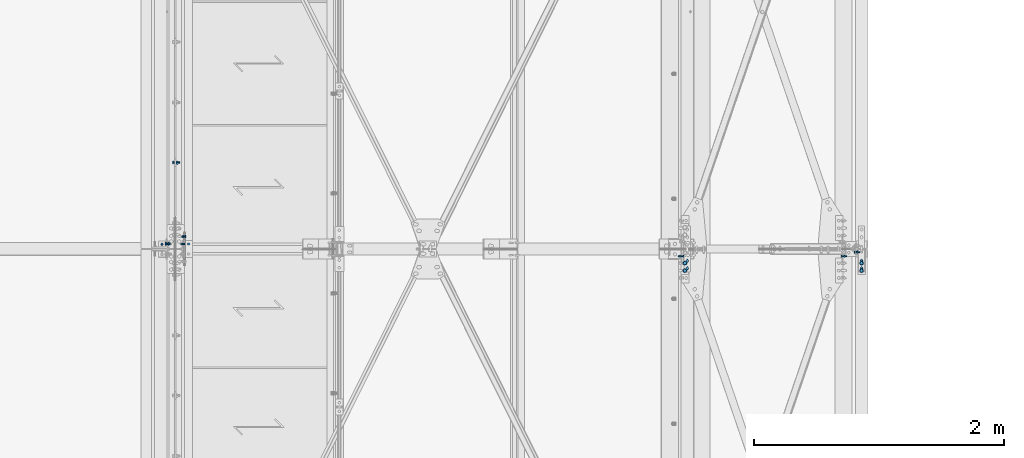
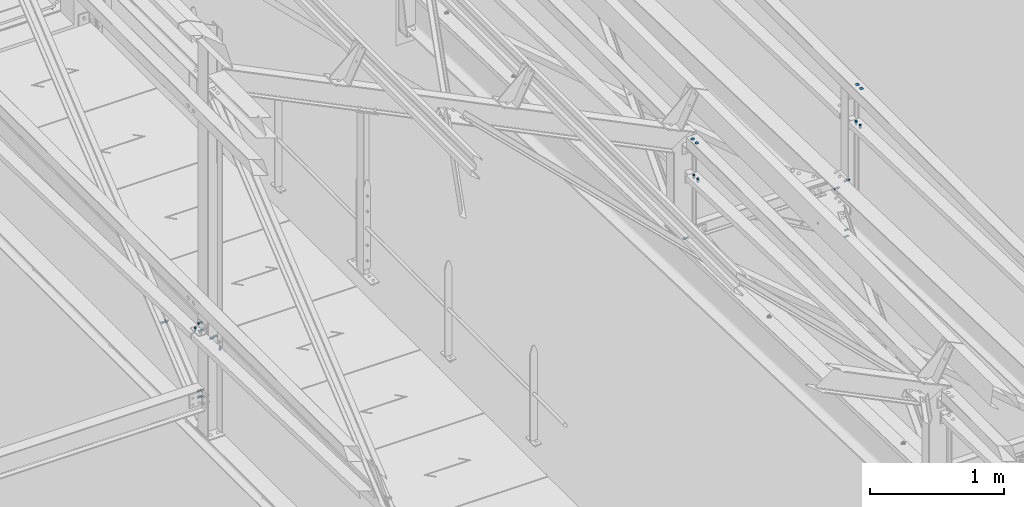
# One storey, part 329 of 362: 17 mechanical fasteners.
"""IFC2X3 building model written with IfcOpenShell, lengths in millimetres."""

from ifc_helpers import new_model, si_unit, frame, frame_2d, origin_with_axes, origin_2d_with_axis, place, context, subcontext, project, spatial, polyline, circle_curve, parameter, trimmed, segment, composite_curve, circle, outline, extrude, source, transform, mapped, material, type_object, element, save


model = new_model("IFC2X3")

# Units and contexts
model_context = context("Model", 3, precision=1e-05, world=origin_with_axes())
body_context = subcontext(model_context, "Body", "Model", "MODEL_VIEW")
ifc_project = project(units=[si_unit("LENGTHUNIT", "METRE", prefix="MILLI"), si_unit("AREAUNIT", "SQUARE_METRE"), si_unit("VOLUMEUNIT", "CUBIC_METRE"), si_unit("MASSUNIT", "GRAM", prefix="KILO"), si_unit("TIMEUNIT", "SECOND"), si_unit("PLANEANGLEUNIT", "RADIAN"), si_unit("SOLIDANGLEUNIT", "STERADIAN"), si_unit("THERMODYNAMICTEMPERATUREUNIT", "DEGREE_CELSIUS"), si_unit("LUMINOUSINTENSITYUNIT", "LUMEN")], contexts=[model_context])

# Site, building, storey
site_placement = place(None, origin_with_axes())
site = spatial("IfcSite", under=ifc_project, at=site_placement, Name="Undefined", CompositionType="ELEMENT")
building_placement = place(site_placement, origin_with_axes())
building = spatial("IfcBuilding", under=site, at=building_placement, Name="Undefined", CompositionType="ELEMENT")
storey_placement = place(building_placement, origin_with_axes())
storey = spatial("IfcBuildingStorey", under=building, at=storey_placement, Name="Undefined", CompositionType="ELEMENT", Elevation=0.0)

# Mechanical fasteners
ifc_material_1 = material(Name="6.8")
mechanical_fastener_type = type_object("IfcMechanicalFastenerType", Name="Bolt assembly")
shared_shape_1 = source(origin_with_axes(), body_context, "Body", "SweptSolid", [
    extrude(circle(Radius=15.0, at=origin_2d_with_axis()), frame((0.0, 0.0, 0.0), z_axis=(0.0, 1.0, 0.0), x_axis=(1.0, 0.0, 0.0)), (0.0, 0.0, 1.0), 4.1),
])
for number, where, z_axis, x_axis, name in (
    (1, (39775.0, 11226.5, 8550.0), (-1.0, 0.0, 0.0), (0.0, 1.0, 0.0), "Bolt assembly"),
    (2, (38360.0, 11226.5, 8550.0), (-1.0, 0.0, 0.0), (0.0, 1.0, 0.0), "Bolt assembly"),
):
    element("IfcMechanicalFastener", number, at=place(storey_placement, frame(where, z_axis=z_axis, x_axis=x_axis)), inside=storey, type_object=mechanical_fastener_type, material=ifc_material_1, Name=name, NominalDiameter=30.0, NominalLength=4.0, context=body_context, shape_type="MappedRepresentation", body=[
        mapped(shared_shape_1, transform((0.0, 0.0, 0.0))),
        mapped(shared_shape_1, transform((60.0, 0.0, 0.0))),
    ])
ifc_material_2 = material(Name="8.8-SB-ZINGUE")
shared_shape_2 = source(origin_with_axes(), body_context, "Body", "SweptSolid", [
    extrude(circle(Radius=9.0, at=origin_2d_with_axis()), frame((0.0, -10.9000000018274, 0.0), z_axis=(0.0, 1.0, 0.0), x_axis=(1.0, 0.0, 0.0)), (0.0, 0.0, 1.0), 6.0),
    extrude(circle(Radius=9.0, at=origin_2d_with_axis()), frame((0.0, 4.9000000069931, 0.0), z_axis=(0.0, 1.0, 0.0), x_axis=(1.0, 0.0, 0.0)), (0.0, 0.0, 1.0), 6.1),
    extrude(circle(Radius=9.0, at=origin_2d_with_axis()), frame((0.0, -3.99999923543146, 0.0), z_axis=(0.0, 1.0, 0.0), x_axis=(1.0, 0.0, 0.0)), (0.0, 0.0, 1.0), 8.0),
    extrude(outline(polyline([(13.85640646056, 0.0), (6.92820323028, 12.0000000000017), (-6.92820323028, 12.0000000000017), (-13.85640646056, 0.0), (-6.92820323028, -12.0000000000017), (6.92820323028, -12.0000000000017), (13.85640646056, 0.0)])), frame((0.0, -21.5600000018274, 0.0), z_axis=(0.0, 1.0, 0.0), x_axis=(1.0, 0.0, 0.0)), (0.0, 0.0, 1.0), 10.56),
    extrude(circle(Radius=8.0, at=origin_2d_with_axis()), frame((0.0, -11.0000000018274, 0.0), z_axis=(0.0, 1.0, 0.0), x_axis=(1.0, 0.0, 0.0)), (0.0, 0.0, 1.0), 50.0),
    extrude(outline(polyline([(15.3344231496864, 0.0), (7.6672115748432, 13.2800000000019), (-7.6672115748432, 13.2800000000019), (-15.3344231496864, 0.0), (-7.6672115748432, -13.2800000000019), (7.6672115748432, -13.2800000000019), (15.3344231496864, 0.0)])), frame((0.0, 11.0000000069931, 0.0), z_axis=(0.0, 1.0, 0.0), x_axis=(1.0, 0.0, 0.0)), (0.0, 0.0, 1.0), 10.56),
])
mechanical_fastener_1_placement = place(storey_placement, frame((34280.0, 12090.8926927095, 7826.89539649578), z_axis=(0.0, 1.0, 0.0), x_axis=(0.0, 0.0, 1.0)))
element("IfcMechanicalFastener", 3, at=mechanical_fastener_1_placement, inside=storey, type_object=mechanical_fastener_type, material=ifc_material_2, Name="Bolt assembly", NominalDiameter=16.0, NominalLength=50.0, context=body_context, shape_type="MappedRepresentation", body=[
    mapped(shared_shape_2, transform((0.0, 0.0, 0.0))),
])
shared_shape_3 = source(origin_with_axes(), body_context, "Body", "SweptSolid", [
    extrude(circle(Radius=7.0, at=origin_2d_with_axis()), frame((0.0, -4.90000000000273, 0.0), z_axis=(0.0, 1.0, 0.0), x_axis=(1.0, 0.0, 0.0)), (0.0, 0.0, 1.0), 5.0),
    extrude(circle(Radius=7.0, at=origin_2d_with_axis()), frame((0.0, -0.100011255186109, 0.0), z_axis=(0.0, 1.0, 0.0), x_axis=(1.0, 0.0, 0.0)), (0.0, 0.0, 1.0), 7.1),
    extrude(outline(polyline([(10.39230484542, 0.0), (5.19615242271, 9.00000000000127), (-5.19615242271, 9.00000000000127), (-10.39230484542, 0.0), (-5.19615242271, -9.00000000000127), (5.19615242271, -9.00000000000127), (10.39230484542, 0.0)])), frame((0.0, -12.9200004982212, 0.0), z_axis=(0.0, 1.0, 0.0), x_axis=(1.0, 0.0, 0.0)), (0.0, 0.0, 1.0), 7.92),
    extrude(circle(Radius=6.0, at=origin_2d_with_axis()), frame((0.0, -5.00000000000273, 0.0), z_axis=(0.0, 1.0, 0.0), x_axis=(1.0, 0.0, 0.0)), (0.0, 0.0, 1.0), 30.0),
    extrude(outline(polyline([(11.5008173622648, 0.0), (5.7504086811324, 9.96000000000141), (-5.7504086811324, 9.96000000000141), (-11.5008173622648, 0.0), (-5.7504086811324, -9.96000000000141), (5.7504086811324, -9.96000000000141), (11.5008173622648, 0.0)])), frame((0.0, 7.0, 0.0), z_axis=(0.0, 1.0, 0.0), x_axis=(1.0, 0.0, 0.0)), (0.0, 0.0, 1.0), 7.92),
])
mechanical_fastener_2_placement = place(storey_placement, frame((34386.5000576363, 11439.9999999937, 7950.00000000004), z_axis=(0.0, -1.0, 0.0), x_axis=(-1.0, 0.0, 0.0)))
element("IfcMechanicalFastener", 4, at=mechanical_fastener_2_placement, inside=storey, type_object=mechanical_fastener_type, material=ifc_material_2, Name="Bolt assembly", NominalDiameter=12.0, NominalLength=30.0, context=body_context, shape_type="MappedRepresentation", body=[
    mapped(shared_shape_3, transform((0.0, 0.0, 0.0))),
])
shared_shape_4 = source(origin_with_axes(), body_context, "Body", "SweptSolid", [
    extrude(circle(Radius=7.0, at=origin_2d_with_axis()), frame((0.0, -0.107944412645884, 0.0), z_axis=(0.0, 1.0, 0.0), x_axis=(1.0, 0.0, 0.0)), (0.0, 0.0, 1.0), 5.1),
    extrude(circle(Radius=7.0, at=origin_2d_with_axis()), frame((0.0, -6.4, 0.0), z_axis=(0.0, 1.0, 0.0), x_axis=(1.0, 0.0, 0.0)), (0.0, 0.0, 1.0), 6.0),
    extrude(outline(polyline([(10.39230484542, 0.0), (5.19615242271, 9.00000000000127), (-5.19615242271, 9.00000000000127), (-10.39230484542, 0.0), (-5.19615242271, -9.00000000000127), (5.19615242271, -9.00000000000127), (10.39230484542, 0.0)])), frame((0.0, -14.42, 0.0), z_axis=(0.0, 1.0, 0.0), x_axis=(1.0, 0.0, 0.0)), (0.0, 0.0, 1.0), 7.92),
    extrude(circle(Radius=6.0, at=origin_2d_with_axis()), frame((0.0, -6.5, 0.0), z_axis=(0.0, 1.0, 0.0), x_axis=(1.0, 0.0, 0.0)), (0.0, 0.0, 1.0), 30.0),
    extrude(outline(polyline([(11.5008173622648, 0.0), (5.7504086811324, 9.96000000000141), (-5.7504086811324, 9.96000000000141), (-11.5008173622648, 0.0), (-5.7504086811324, -9.96000000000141), (5.7504086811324, -9.96000000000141), (11.5008173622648, 0.0)])), frame((0.0, 4.99205558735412, 0.0), z_axis=(0.0, 1.0, 0.0), x_axis=(1.0, 0.0, 0.0)), (0.0, 0.0, 1.0), 7.92),
])
mechanical_fastener_3_placement = place(storey_placement, frame((34351.491943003, 11499.9999999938, 8015.00000000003), z_axis=(0.0, 0.0, -1.0), x_axis=(0.0, -1.0, 0.0)))
element("IfcMechanicalFastener", 5, at=mechanical_fastener_3_placement, inside=storey, type_object=mechanical_fastener_type, material=ifc_material_2, Name="Bolt assembly", NominalDiameter=12.0, NominalLength=30.0, context=body_context, shape_type="MappedRepresentation", body=[
    mapped(shared_shape_4, transform((0.0, 0.0, 0.0))),
])
shared_shape_5 = source(origin_with_axes(), body_context, "Body", "SweptSolid", [
    extrude(circle(Radius=7.0, at=origin_2d_with_axis()), frame((0.0, -0.0999426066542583, 0.0), z_axis=(0.0, 1.0, 0.0), x_axis=(1.0, 0.0, 0.0)), (0.0, 0.0, 1.0), 8.6),
    extrude(circle(Radius=7.0, at=origin_2d_with_axis()), frame((0.0, -4.89983187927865, 0.0), z_axis=(0.0, 1.0, 0.0), x_axis=(1.0, 0.0, 0.0)), (0.0, 0.0, 1.0), 5.0),
    extrude(outline(polyline([(10.39230484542, 0.0), (5.19615242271, 9.00000000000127), (-5.19615242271, 9.00000000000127), (-10.39230484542, 0.0), (-5.19615242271, -9.00000000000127), (5.19615242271, -9.00000000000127), (10.39230484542, 0.0)])), frame((0.0, -12.9198318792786, 0.0), z_axis=(0.0, 1.0, 0.0), x_axis=(1.0, 0.0, 0.0)), (0.0, 0.0, 1.0), 7.92),
    extrude(circle(Radius=6.0, at=origin_2d_with_axis()), frame((0.0, -4.99983187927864, 0.0), z_axis=(0.0, 1.0, 0.0), x_axis=(1.0, 0.0, 0.0)), (0.0, 0.0, 1.0), 30.0),
    extrude(outline(polyline([(11.5008173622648, 0.0), (5.7504086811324, 9.96000000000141), (-5.7504086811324, 9.96000000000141), (-11.5008173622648, 0.0), (-5.7504086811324, -9.96000000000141), (5.7504086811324, -9.96000000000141), (11.5008173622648, 0.0)])), frame((0.0, 8.50005763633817, 0.0), z_axis=(0.0, 1.0, 0.0), x_axis=(1.0, 0.0, 0.0)), (0.0, 0.0, 1.0), 7.92),
])
mechanical_fastener_4_placement = place(storey_placement, frame((34346.5000576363, 11440.0000009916, 8070.00000000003), z_axis=(0.0, 1.0, 0.0), x_axis=(0.0, 0.0, -1.0)))
element("IfcMechanicalFastener", 6, at=mechanical_fastener_4_placement, inside=storey, type_object=mechanical_fastener_type, material=ifc_material_2, Name="Bolt assembly", NominalDiameter=12.0, NominalLength=30.0, context=body_context, shape_type="MappedRepresentation", body=[
    mapped(shared_shape_5, transform((0.0, 0.0, 0.0))),
])
shared_shape_6 = source(origin_with_axes(), body_context, "Body", "SweptSolid", [
    extrude(circle(Radius=7.0, at=origin_2d_with_axis()), frame((0.0, -3.88823162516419, 0.0), z_axis=(0.0, 1.0, 0.0), x_axis=(1.0, 0.0, 0.0)), (0.0, 0.0, 1.0), 4.0),
    extrude(outline(composite_curve([segment(polyline([(-7.0, 7.0), (7.0, 7.0)]), True, "CONTINUOUS"), segment(trimmed(circle_curve(frame_2d((7.0, 0.0), x_axis=(0.0, 1.0)), 7.0), [parameter(0.0)], [parameter(3.14159265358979)], False, "PARAMETER"), True, "CONTINUOUS"), segment(polyline([(7.0, -7.0), (-7.0, -7.0)]), True, "CONTINUOUS"), segment(trimmed(circle_curve(frame_2d((-7.0, 0.0), x_axis=(0.0, -1.0)), 7.0), [parameter(0.0)], [parameter(3.14159265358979)], False, "PARAMETER"), True, "DISCONTINUOUS")], self_intersect=False)), frame((0.0, -0.100011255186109, 0.0), z_axis=(0.0, 1.0, 0.0), x_axis=(1.0, 0.0, 0.0)), (0.0, 0.0, 1.0), 6.1),
    extrude(outline(polyline([(10.39230484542, 0.0), (5.19615242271, 9.00000000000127), (-5.19615242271, 9.00000000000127), (-10.39230484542, 0.0), (-5.19615242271, -9.00000000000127), (5.19615242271, -9.00000000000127), (10.39230484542, 0.0)])), frame((0.0, -11.9082316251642, 0.0), z_axis=(0.0, 1.0, 0.0), x_axis=(1.0, 0.0, 0.0)), (0.0, 0.0, 1.0), 7.92),
    extrude(circle(Radius=6.0, at=origin_2d_with_axis()), frame((0.0, -3.98823162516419, 0.0), z_axis=(0.0, 1.0, 0.0), x_axis=(1.0, 0.0, 0.0)), (0.0, 0.0, 1.0), 30.0),
    extrude(circle(Radius=10.8, at=origin_2d_with_axis()), frame((0.0, 6.0, 0.0), z_axis=(0.0, 1.0, 0.0), x_axis=(1.0, 0.0, 0.0)), (0.0, 0.0, 1.0), 3.96),
    extrude(outline(polyline([(11.5008173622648, 0.0), (5.7504086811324, 9.96000000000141), (-5.7504086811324, 9.96000000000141), (-11.5008173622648, 0.0), (-5.7504086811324, -9.96000000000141), (5.7504086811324, -9.96000000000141), (11.5008173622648, 0.0)])), frame((0.0, 9.9600084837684, 0.0), z_axis=(0.0, 1.0, 0.0), x_axis=(1.0, 0.0, 0.0)), (0.0, 0.0, 1.0), 7.92),
])
mechanical_fastener_5_placement = place(storey_placement, frame((39775.0, 11245.0444201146, 8197.86935261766), z_axis=(-1.0, 0.0, 0.0), x_axis=(0.0, 0.99950644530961, -0.0314144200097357)))
element("IfcMechanicalFastener", 7, at=mechanical_fastener_5_placement, inside=storey, type_object=mechanical_fastener_type, material=ifc_material_2, Name="Bolt assembly", NominalDiameter=12.0, NominalLength=30.0, context=body_context, shape_type="MappedRepresentation", body=[
    mapped(shared_shape_6, transform((0.0, 0.0, 0.0))),
    mapped(shared_shape_6, transform((60.0, 0.0, 0.0))),
])
shared_shape_7 = source(origin_with_axes(), body_context, "Body", "SweptSolid", [
    extrude(circle(Radius=7.0, at=origin_2d_with_axis()), frame((0.0, -3.89999843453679, 0.0), z_axis=(0.0, 1.0, 0.0), x_axis=(1.0, 0.0, 0.0)), (0.0, 0.0, 1.0), 4.0),
    extrude(outline(composite_curve([segment(polyline([(-7.0, 7.0), (7.0, 7.0)]), True, "CONTINUOUS"), segment(trimmed(circle_curve(frame_2d((7.0, 0.0), x_axis=(0.0, 1.0)), 7.0), [parameter(0.0)], [parameter(3.14159265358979)], False, "PARAMETER"), True, "CONTINUOUS"), segment(polyline([(7.0, -7.0), (-7.0, -7.0)]), True, "CONTINUOUS"), segment(trimmed(circle_curve(frame_2d((-7.0, 0.0), x_axis=(0.0, -1.0)), 7.0), [parameter(0.0)], [parameter(3.14159265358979)], False, "PARAMETER"), True, "DISCONTINUOUS")], self_intersect=False)), frame((0.0, -0.100011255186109, 0.0), z_axis=(0.0, 1.0, 0.0), x_axis=(1.0, 0.0, 0.0)), (0.0, 0.0, 1.0), 6.1),
    extrude(outline(polyline([(10.39230484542, 0.0), (5.19615242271, 9.00000000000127), (-5.19615242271, 9.00000000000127), (-10.39230484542, 0.0), (-5.19615242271, -9.00000000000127), (5.19615242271, -9.00000000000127), (10.39230484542, 0.0)])), frame((0.0, -11.9199984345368, 0.0), z_axis=(0.0, 1.0, 0.0), x_axis=(1.0, 0.0, 0.0)), (0.0, 0.0, 1.0), 7.92),
    extrude(circle(Radius=6.0, at=origin_2d_with_axis()), frame((0.0, -3.99999923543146, 0.0), z_axis=(0.0, 1.0, 0.0), x_axis=(1.0, 0.0, 0.0)), (0.0, 0.0, 1.0), 30.0),
    extrude(circle(Radius=10.8, at=origin_2d_with_axis()), frame((0.0, 6.0, 0.0), z_axis=(0.0, 1.0, 0.0), x_axis=(1.0, 0.0, 0.0)), (0.0, 0.0, 1.0), 3.96),
    extrude(outline(polyline([(11.5008173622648, 0.0), (5.7504086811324, 9.96000000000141), (-5.7504086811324, 9.96000000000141), (-11.5008173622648, 0.0), (-5.7504086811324, -9.96000000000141), (5.7504086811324, -9.96000000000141), (11.5008173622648, 0.0)])), frame((0.0, 9.9600084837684, 0.0), z_axis=(0.0, 1.0, 0.0), x_axis=(1.0, 0.0, 0.0)), (0.0, 0.0, 1.0), 7.92),
])
mechanical_fastener_6_placement = place(storey_placement, frame((38380.0, 11245.0444201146, 8197.86935261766), z_axis=(-1.0, 0.0, 0.0), x_axis=(0.0, 0.99950644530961, -0.0314144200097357)))
element("IfcMechanicalFastener", 8, at=mechanical_fastener_6_placement, inside=storey, type_object=mechanical_fastener_type, material=ifc_material_2, Name="Bolt assembly", NominalDiameter=12.0, NominalLength=30.0, context=body_context, shape_type="MappedRepresentation", body=[
    mapped(shared_shape_7, transform((0.0, 0.0, 0.0))),
    mapped(shared_shape_7, transform((60.0, 0.0, 0.0))),
])
shared_shape_8 = source(origin_with_axes(), body_context, "Body", "SweptSolid", [
    extrude(circle(Radius=7.0, at=origin_2d_with_axis()), frame((0.0, -1.35617756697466, 0.0), z_axis=(0.0, 1.0, 0.0), x_axis=(1.0, 0.0, 0.0)), (0.0, 0.0, 1.0), 4.1),
    extrude(circle(Radius=7.0, at=origin_2d_with_axis()), frame((0.0, -8.15617756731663, 0.0), z_axis=(0.0, 1.0, 0.0), x_axis=(1.0, 0.0, 0.0)), (0.0, 0.0, 1.0), 7.0),
    extrude(outline(polyline([(10.39230484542, 0.0), (5.19615242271, 9.00000000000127), (-5.19615242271, 9.00000000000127), (-10.39230484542, 0.0), (-5.19615242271, -9.00000000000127), (5.19615242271, -9.00000000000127), (10.39230484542, 0.0)])), frame((0.0, -16.1761775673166, 0.0), z_axis=(0.0, 1.0, 0.0), x_axis=(1.0, 0.0, 0.0)), (0.0, 0.0, 1.0), 7.92),
    extrude(circle(Radius=6.0, at=origin_2d_with_axis()), frame((0.0, -8.25617756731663, 0.0), z_axis=(0.0, 1.0, 0.0), x_axis=(1.0, 0.0, 0.0)), (0.0, 0.0, 1.0), 30.0),
    extrude(outline(polyline([(11.5008173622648, 0.0), (5.7504086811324, 9.96000000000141), (-5.7504086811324, 9.96000000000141), (-11.5008173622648, 0.0), (-5.7504086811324, -9.96000000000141), (5.7504086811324, -9.96000000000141), (11.5008173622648, 0.0)])), frame((0.0, 2.74382243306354, 0.0), z_axis=(0.0, 1.0, 0.0), x_axis=(1.0, 0.0, 0.0)), (0.0, 0.0, 1.0), 7.92),
])
mechanical_fastener_7_placement = place(storey_placement, frame((34173.5002326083, 11438.6738784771, 8194.52879749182), z_axis=(0.0, 0.999506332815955, -0.0314179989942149), x_axis=(1.0, 0.0, 0.0)))
element("IfcMechanicalFastener", 9, at=mechanical_fastener_7_placement, inside=storey, type_object=mechanical_fastener_type, material=ifc_material_2, Name="Bolt assembly", NominalDiameter=12.0, NominalLength=30.0, context=body_context, shape_type="MappedRepresentation", body=[
    mapped(shared_shape_8, transform((0.0, 0.0, 0.0))),
])
shared_shape_9 = source(origin_with_axes(), body_context, "Body", "SweptSolid", [
    extrude(circle(Radius=7.0, at=origin_2d_with_axis()), frame((0.0, -0.10007666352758, 0.0), z_axis=(0.0, 1.0, 0.0), x_axis=(1.0, 0.0, 0.0)), (0.0, 0.0, 1.0), 8.6),
    extrude(circle(Radius=7.0, at=origin_2d_with_axis()), frame((0.0, -6.9, 0.0), z_axis=(0.0, 1.0, 0.0), x_axis=(1.0, 0.0, 0.0)), (0.0, 0.0, 1.0), 7.0),
    extrude(outline(polyline([(10.39230484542, 0.0), (5.19615242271, 9.00000000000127), (-5.19615242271, 9.00000000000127), (-10.39230484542, 0.0), (-5.19615242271, -9.00000000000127), (5.19615242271, -9.00000000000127), (10.39230484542, 0.0)])), frame((0.0, -14.92, 0.0), z_axis=(0.0, 1.0, 0.0), x_axis=(1.0, 0.0, 0.0)), (0.0, 0.0, 1.0), 7.92),
    extrude(circle(Radius=6.0, at=origin_2d_with_axis()), frame((0.0, -7.0, 0.0), z_axis=(0.0, 1.0, 0.0), x_axis=(1.0, 0.0, 0.0)), (0.0, 0.0, 1.0), 30.0),
    extrude(outline(polyline([(11.5008173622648, 0.0), (5.7504086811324, 9.96000000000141), (-5.7504086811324, 9.96000000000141), (-11.5008173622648, 0.0), (-5.7504086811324, -9.96000000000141), (5.7504086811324, -9.96000000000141), (11.5008173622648, 0.0)])), frame((0.0, 8.49988372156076, 0.0), z_axis=(0.0, 1.0, 0.0), x_axis=(1.0, 0.0, 0.0)), (0.0, 0.0, 1.0), 7.92),
])
mechanical_fastener_8_placement = place(storey_placement, frame((34213.5001162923, 11439.999998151, 8235.76366746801), z_axis=(0.0, 0.0, -1.0), x_axis=(0.0, 1.0, 0.0)))
element("IfcMechanicalFastener", 10, at=mechanical_fastener_8_placement, inside=storey, type_object=mechanical_fastener_type, material=ifc_material_2, Name="Bolt assembly", NominalDiameter=12.0, NominalLength=30.0, context=body_context, shape_type="MappedRepresentation", body=[
    mapped(shared_shape_9, transform((0.0, 0.0, 0.0))),
])
shared_shape_10 = source(origin_with_axes(), body_context, "Body", "SweptSolid", [
    extrude(circle(Radius=7.0, at=origin_2d_with_axis()), frame((0.0, -0.10007666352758, 0.0), z_axis=(0.0, 1.0, 0.0), x_axis=(1.0, 0.0, 0.0)), (0.0, 0.0, 1.0), 8.6),
    extrude(circle(Radius=7.0, at=origin_2d_with_axis()), frame((0.0, -3.89999843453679, 0.0), z_axis=(0.0, 1.0, 0.0), x_axis=(1.0, 0.0, 0.0)), (0.0, 0.0, 1.0), 4.0),
    extrude(outline(polyline([(10.39230484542, 0.0), (5.19615242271, 9.00000000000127), (-5.19615242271, 9.00000000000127), (-10.39230484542, 0.0), (-5.19615242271, -9.00000000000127), (5.19615242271, -9.00000000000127), (10.39230484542, 0.0)])), frame((0.0, -11.9199984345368, 0.0), z_axis=(0.0, 1.0, 0.0), x_axis=(1.0, 0.0, 0.0)), (0.0, 0.0, 1.0), 7.92),
    extrude(circle(Radius=6.0, at=origin_2d_with_axis()), frame((0.0, -3.99999923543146, 0.0), z_axis=(0.0, 1.0, 0.0), x_axis=(1.0, 0.0, 0.0)), (0.0, 0.0, 1.0), 30.0),
    extrude(outline(polyline([(11.5008173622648, 0.0), (5.7504086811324, 9.96000000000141), (-5.7504086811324, 9.96000000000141), (-11.5008173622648, 0.0), (-5.7504086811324, -9.96000000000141), (5.7504086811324, -9.96000000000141), (11.5008173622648, 0.0)])), frame((0.0, 8.49988372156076, 0.0), z_axis=(0.0, 1.0, 0.0), x_axis=(1.0, 0.0, 0.0)), (0.0, 0.0, 1.0), 7.92),
])
mechanical_fastener_9_placement = place(storey_placement, frame((34213.5001162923, 11439.999998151, 8165.72910347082), z_axis=(0.0, 0.0, -1.0), x_axis=(0.0, 1.0, 0.0)))
element("IfcMechanicalFastener", 11, at=mechanical_fastener_9_placement, inside=storey, type_object=mechanical_fastener_type, material=ifc_material_2, Name="Bolt assembly", NominalDiameter=12.0, NominalLength=30.0, context=body_context, shape_type="MappedRepresentation", body=[
    mapped(shared_shape_10, transform((0.0, 0.0, 0.0))),
])
shared_shape_11 = source(origin_with_axes(), body_context, "Body", "SweptSolid", [
    extrude(circle(Radius=6.0, at=origin_2d_with_axis()), frame((0.0, -0.100011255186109, 0.0), z_axis=(0.0, 1.0, 0.0), x_axis=(1.0, 0.0, 0.0)), (0.0, 0.0, 1.0), 8.1),
    extrude(circle(Radius=6.0, at=origin_2d_with_axis()), frame((0.0, -3.89999843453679, 0.0), z_axis=(0.0, 1.0, 0.0), x_axis=(1.0, 0.0, 0.0)), (0.0, 0.0, 1.0), 4.0),
    extrude(outline(polyline([(9.81495457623, 0.0), (4.907477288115, 8.5000000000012), (-4.907477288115, 8.5000000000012), (-9.81495457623, 0.0), (-4.907477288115, -8.5000000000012), (4.907477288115, -8.5000000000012), (9.81495457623, 0.0)])), frame((0.0, -11.5, 0.0), z_axis=(0.0, 1.0, 0.0), x_axis=(1.0, 0.0, 0.0)), (0.0, 0.0, 1.0), 7.5),
    extrude(circle(Radius=5.0, at=origin_2d_with_axis()), frame((0.0, -3.99999923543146, 0.0), z_axis=(0.0, 1.0, 0.0), x_axis=(1.0, 0.0, 0.0)), (0.0, 0.0, 1.0), 30.0),
    extrude(outline(polyline([(9.23760430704, 0.0), (4.61880215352, 8.00000000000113), (-4.61880215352, 8.00000000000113), (-9.23760430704, 0.0), (-4.61880215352, -8.00000000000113), (4.61880215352, -8.00000000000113), (9.23760430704, 0.0)])), frame((0.0, 8.00000527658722, 0.0), z_axis=(0.0, 1.0, 0.0), x_axis=(1.0, 0.0, 0.0)), (0.0, 0.0, 1.0), 8.4),
])
mechanical_fastener_10_placement = place(storey_placement, frame((39729.0000003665, 11374.9999999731, 7160.00000925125), z_axis=(0.0, 0.0, -1.0), x_axis=(0.0, 1.0, 0.0)))
element("IfcMechanicalFastener", 12, at=mechanical_fastener_10_placement, inside=storey, type_object=mechanical_fastener_type, material=ifc_material_1, Name="Bolt assembly", NominalDiameter=10.0, NominalLength=30.0, context=body_context, shape_type="MappedRepresentation", body=[
    mapped(shared_shape_11, transform((0.0, 0.0, -30.0))),
    mapped(shared_shape_11, transform((0.0, 0.0, 30.0))),
])
ifc_material_3 = material(Name="#_SB-8.8-ZINGUE")
shared_shape_12 = source(origin_with_axes(), body_context, "Body", "SweptSolid", [
    extrude(circle(Radius=7.0, at=origin_2d_with_axis()), frame((0.0, -0.100011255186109, 0.0), z_axis=(0.0, 1.0, 0.0), x_axis=(1.0, 0.0, 0.0)), (0.0, 0.0, 1.0), 8.1),
    extrude(circle(Radius=7.0, at=origin_2d_with_axis()), frame((0.0, -7.9, 0.0), z_axis=(0.0, 1.0, 0.0), x_axis=(1.0, 0.0, 0.0)), (0.0, 0.0, 1.0), 8.0),
    extrude(outline(polyline([(10.39230484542, 0.0), (5.19615242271, 9.00000000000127), (-5.19615242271, 9.00000000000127), (-10.39230484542, 0.0), (-5.19615242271, -9.00000000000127), (5.19615242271, -9.00000000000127), (10.39230484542, 0.0)])), frame((0.0, -15.92, 0.0), z_axis=(0.0, 1.0, 0.0), x_axis=(1.0, 0.0, 0.0)), (0.0, 0.0, 1.0), 7.92),
    extrude(circle(Radius=6.0, at=origin_2d_with_axis()), frame((0.0, -8.0, 0.0), z_axis=(0.0, 1.0, 0.0), x_axis=(1.0, 0.0, 0.0)), (0.0, 0.0, 1.0), 40.0),
    extrude(outline(polyline([(11.5008173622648, 0.0), (5.7504086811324, 9.96000000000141), (-5.7504086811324, 9.96000000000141), (-11.5008173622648, 0.0), (-5.7504086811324, -9.96000000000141), (5.7504086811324, -9.96000000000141), (11.5008173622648, 0.0)])), frame((0.0, 8.00000527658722, 0.0), z_axis=(0.0, 1.0, 0.0), x_axis=(1.0, 0.0, 0.0)), (0.0, 0.0, 1.0), 7.92),
])
mechanical_fastener_11_placement = place(storey_placement, frame((39729.0, 11375.0000000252, 7637.29897338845), z_axis=(7.58071938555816e-11, 0.0314107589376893, 0.999506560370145), x_axis=(0.0, -0.999506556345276, 0.031410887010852)))
element("IfcMechanicalFastener", 13, at=mechanical_fastener_11_placement, inside=storey, type_object=mechanical_fastener_type, material=ifc_material_3, Name="Bolt assembly", NominalDiameter=12.0, NominalLength=40.0, context=body_context, shape_type="MappedRepresentation", body=[
    mapped(shared_shape_12, transform((0.0, 0.0, 0.0))),
])
shared_shape_13 = source(origin_with_axes(), body_context, "Body", "SweptSolid", [
    extrude(circle(Radius=7.0, at=origin_2d_with_axis()), frame((0.0, -4.90000000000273, 0.0), z_axis=(0.0, 1.0, 0.0), x_axis=(1.0, 0.0, 0.0)), (0.0, 0.0, 1.0), 6.7),
    extrude(circle(Radius=7.0, at=origin_2d_with_axis()), frame((0.0, -14.899999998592, 0.0), z_axis=(0.0, 1.0, 0.0), x_axis=(1.0, 0.0, 0.0)), (0.0, 0.0, 1.0), 10.0),
    extrude(outline(polyline([(10.39230484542, 0.0), (5.19615242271, 9.00000000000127), (-5.19615242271, 9.00000000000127), (-10.39230484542, 0.0), (-5.19615242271, -9.00000000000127), (5.19615242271, -9.00000000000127), (10.39230484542, 0.0)])), frame((0.0, -22.919999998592, 0.0), z_axis=(0.0, 1.0, 0.0), x_axis=(1.0, 0.0, 0.0)), (0.0, 0.0, 1.0), 7.92),
    extrude(circle(Radius=6.0, at=origin_2d_with_axis()), frame((0.0, -14.999999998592, 0.0), z_axis=(0.0, 1.0, 0.0), x_axis=(1.0, 0.0, 0.0)), (0.0, 0.0, 1.0), 40.0),
    extrude(outline(polyline([(11.5008173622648, 0.0), (5.7504086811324, 9.96000000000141), (-5.7504086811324, 9.96000000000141), (-11.5008173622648, 0.0), (-5.7504086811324, -9.96000000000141), (5.7504086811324, -9.96000000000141), (11.5008173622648, 0.0)])), frame((0.0, 1.79999995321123, 0.0), z_axis=(0.0, 1.0, 0.0), x_axis=(1.0, 0.0, 0.0)), (0.0, 0.0, 1.0), 7.92),
])
mechanical_fastener_12_placement = place(storey_placement, frame((39631.5, 11341.7145030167, 7623.53775624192), z_axis=(-1.05403257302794e-09, -0.0314112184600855, -0.999506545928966), x_axis=(3.14103090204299e-11, 0.999506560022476, -0.0314107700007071)))
element("IfcMechanicalFastener", 14, at=mechanical_fastener_12_placement, inside=storey, type_object=mechanical_fastener_type, material=ifc_material_2, Name="Bolt assembly", NominalDiameter=12.0, NominalLength=40.0, context=body_context, shape_type="MappedRepresentation", body=[
    mapped(shared_shape_13, transform((0.0, 0.0, 0.0))),
])
shared_shape_14 = source(origin_with_axes(), body_context, "Body", "SweptSolid", [
    extrude(circle(Radius=7.0, at=origin_2d_with_axis()), frame((0.0, -4.79999988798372, 0.0), z_axis=(0.0, 1.0, 0.0), x_axis=(1.0, 0.0, 0.0)), (0.0, 0.0, 1.0), 9.5),
    extrude(circle(Radius=7.0, at=origin_2d_with_axis()), frame((0.0, -14.899999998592, 0.0), z_axis=(0.0, 1.0, 0.0), x_axis=(1.0, 0.0, 0.0)), (0.0, 0.0, 1.0), 10.0),
    extrude(outline(polyline([(10.39230484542, 0.0), (5.19615242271, 9.00000000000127), (-5.19615242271, 9.00000000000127), (-10.39230484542, 0.0), (-5.19615242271, -9.00000000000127), (5.19615242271, -9.00000000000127), (10.39230484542, 0.0)])), frame((0.0, -22.919999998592, 0.0), z_axis=(0.0, 1.0, 0.0), x_axis=(1.0, 0.0, 0.0)), (0.0, 0.0, 1.0), 7.92),
    extrude(circle(Radius=6.0, at=origin_2d_with_axis()), frame((0.0, -14.999999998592, 0.0), z_axis=(0.0, 1.0, 0.0), x_axis=(1.0, 0.0, 0.0)), (0.0, 0.0, 1.0), 40.0),
    extrude(outline(polyline([(11.5008173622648, 0.0), (5.7504086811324, 9.96000000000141), (-5.7504086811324, 9.96000000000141), (-11.5008173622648, 0.0), (-5.7504086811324, -9.96000000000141), (5.7504086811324, -9.96000000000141), (11.5008173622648, 0.0)])), frame((0.0, 4.69999973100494, 0.0), z_axis=(0.0, 1.0, 0.0), x_axis=(1.0, 0.0, 0.0)), (0.0, 0.0, 1.0), 7.92),
])
mechanical_fastener_13_placement = place(storey_placement, frame((38330.0, 11341.7145029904, 7623.53775624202), z_axis=(7.58071938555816e-11, 0.0314107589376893, 0.999506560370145), x_axis=(3.14103090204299e-11, 0.999506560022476, -0.0314107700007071)))
element("IfcMechanicalFastener", 15, at=mechanical_fastener_13_placement, inside=storey, type_object=mechanical_fastener_type, material=ifc_material_2, Name="Bolt assembly", NominalDiameter=12.0, NominalLength=40.0, context=body_context, shape_type="MappedRepresentation", body=[
    mapped(shared_shape_14, transform((0.0, 0.0, 0.0))),
])
shared_shape_15 = source(origin_with_axes(), body_context, "Body", "SweptSolid", [
    extrude(circle(Radius=7.0, at=origin_2d_with_axis()), frame((0.0, -0.100011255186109, 0.0), z_axis=(0.0, 1.0, 0.0), x_axis=(1.0, 0.0, 0.0)), (0.0, 0.0, 1.0), 8.6),
    extrude(circle(Radius=7.0, at=origin_2d_with_axis()), frame((0.0, -9.9, 0.0), z_axis=(0.0, 1.0, 0.0), x_axis=(1.0, 0.0, 0.0)), (0.0, 0.0, 1.0), 10.0),
    extrude(outline(polyline([(10.39230484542, 0.0), (5.19615242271, 9.00000000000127), (-5.19615242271, 9.00000000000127), (-10.39230484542, 0.0), (-5.19615242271, -9.00000000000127), (5.19615242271, -9.00000000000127), (10.39230484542, 0.0)])), frame((0.0, -17.92, 0.0), z_axis=(0.0, 1.0, 0.0), x_axis=(1.0, 0.0, 0.0)), (0.0, 0.0, 1.0), 7.92),
    extrude(circle(Radius=6.0, at=origin_2d_with_axis()), frame((0.0, -10.0000010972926, 0.0), z_axis=(0.0, 1.0, 0.0), x_axis=(1.0, 0.0, 0.0)), (0.0, 0.0, 1.0), 40.0),
    extrude(outline(polyline([(11.5008173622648, 0.0), (5.7504086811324, 9.96000000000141), (-5.7504086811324, 9.96000000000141), (-11.5008173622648, 0.0), (-5.7504086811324, -9.96000000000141), (5.7504086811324, -9.96000000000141), (11.5008173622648, 0.0)])), frame((0.0, 8.49999994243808, 0.0), z_axis=(0.0, 1.0, 0.0), x_axis=(1.0, 0.0, 0.0)), (0.0, 0.0, 1.0), 7.92),
])
for number, where, z_axis, x_axis, name in (
    (16, (34213.5000013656, 11444.9999999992, 7620.28999334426), (0.0, 0.0, -1.0), (0.0, 1.0, 0.0), "Bolt assembly"),
    (17, (34213.5000013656, 11444.9999999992, 7560.26037148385), (0.0, 0.0, -1.0), (0.0, 1.0, 0.0), "Bolt assembly"),
):
    element("IfcMechanicalFastener", number, at=place(storey_placement, frame(where, z_axis=z_axis, x_axis=x_axis)), inside=storey, type_object=mechanical_fastener_type, material=ifc_material_2, Name=name, NominalDiameter=12.0, NominalLength=40.0, context=body_context, shape_type="MappedRepresentation", body=[
        mapped(shared_shape_15, transform((0.0, 0.0, 0.0))),
    ])

save(model, "model.ifc")
